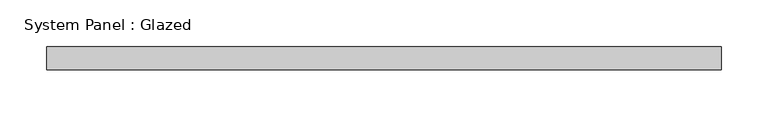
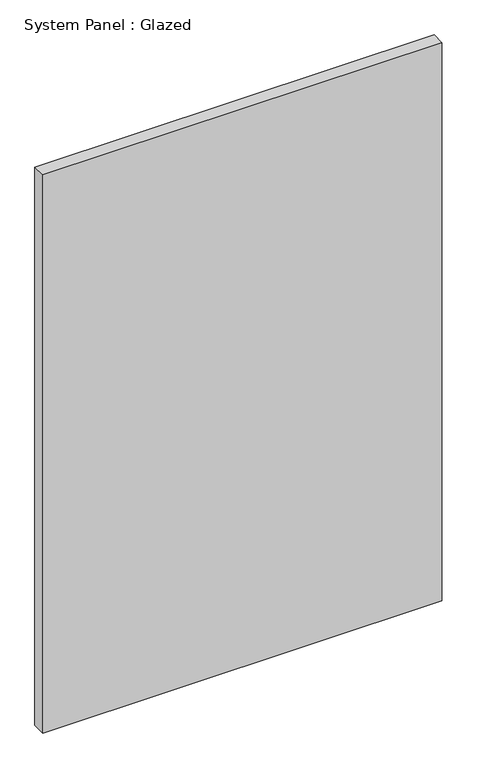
"""IFC4 building model written with IfcOpenShell, lengths in millimetres: plate geometry, System Panel : Glazed."""

import ifcopenshell
import ifcopenshell.guid

model = None  # the IFC model being written
_history = None  # IfcOwnerHistory: only IFC2X3 demands one
_inside = {}  # id of a spatial element -> (the spatial element, [elements in it])
_under = {}  # id of a project, library or spatial element -> (it, [spatial elements below it])
_declared = {}  # id of a project -> (the project, [libraries it declares])
_typed = {}  # id of a type object -> (the type object, [elements of that type])
_made_of = {}  # id of a material, layer set ... -> (it, [elements and type objects made of it])


def new_model(schema):
    """Start an empty IFC model of exactly this schema.

    Asked for "IFC4X3", IfcOpenShell would pick the latest addendum, in which some entities
    have other attributes; the version numbers below select the first issue.
    IFC2X3 requires an IfcOwnerHistory on every rooted entity: one is made here for all.
    """
    global model, _history
    if schema == "IFC4X3":
        model = ifcopenshell.file(schema_version=(4, 3, 0, 0))
    else:
        model = ifcopenshell.file(schema=schema)
    _inside.clear()
    _under.clear()
    _declared.clear()
    _typed.clear()
    _made_of.clear()
    _history = None
    if model.schema == "IFC2X3":
        org = make("IfcOrganization", Name="unknown")
        user = make(
            "IfcPersonAndOrganization",
            ThePerson=make("IfcPerson", FamilyName="unknown"),
            TheOrganization=org,
        )
        app = make(
            "IfcApplication",
            ApplicationDeveloper=org,
            Version="unknown",
            ApplicationFullName="unknown",
            ApplicationIdentifier="unknown",
        )
        _history = make(
            "IfcOwnerHistory",
            OwningUser=user,
            OwningApplication=app,
            ChangeAction="ADDED",
            CreationDate=0,
        )
    return model


def make(cls, **values):
    """One entity of the class cls with the attributes given. An attribute that is None is left unset."""
    return model.create_entity(
        cls, **{name: value for name, value in values.items() if value is not None}
    )


def rooted(cls, **values):
    """An entity with a GlobalId (a new one), such as an element, a storey or a relation."""
    return make(cls, GlobalId=ifcopenshell.guid.new(), OwnerHistory=_history, **values)


def si_unit(unit_type, name, prefix=None):
    """IfcSIUnit, for example si_unit("LENGTHUNIT", "METRE", prefix="MILLI")."""
    return make("IfcSIUnit", UnitType=unit_type, Prefix=prefix, Name=name)


def assignment(units):
    """IfcUnitAssignment: the units of a project."""
    return None if units is None else make("IfcUnitAssignment", Units=units)


def point(xyz):
    """IfcCartesianPoint."""
    return None if xyz is None else make("IfcCartesianPoint", Coordinates=xyz)


def direction(xyz):
    """IfcDirection."""
    return None if xyz is None else make("IfcDirection", DirectionRatios=xyz)


def frame(location, z_axis=None, x_axis=None):
    """IfcAxis2Placement3D, a coordinate frame: its origin and axes. An axis left out is left unset."""
    return make(
        "IfcAxis2Placement3D",
        Location=point(location),
        Axis=direction(z_axis),
        RefDirection=direction(x_axis),
    )


def origin():
    """The frame at (0, 0, 0) with its axes left unset."""
    return frame((0.0, 0.0, 0.0))


def origin_with_axes():
    """The frame at (0, 0, 0) with the z axis (0, 0, 1) and the x axis (1, 0, 0) written out."""
    return frame((0.0, 0.0, 0.0), z_axis=(0.0, 0.0, 1.0), x_axis=(1.0, 0.0, 0.0))


def place(relative_to, where):
    """IfcLocalPlacement: puts the frame where relative to a parent placement (None: the world)."""
    return make(
        "IfcLocalPlacement", PlacementRelTo=relative_to, RelativePlacement=where
    )


def context(
    kind, dimensions, precision=None, world=None, true_north=None, identifier=None
):
    """IfcGeometricRepresentationContext, for example the 3D "Model" context."""
    return make(
        "IfcGeometricRepresentationContext",
        ContextIdentifier=identifier,
        ContextType=kind,
        CoordinateSpaceDimension=dimensions,
        Precision=precision,
        WorldCoordinateSystem=world,
        TrueNorth=true_north,
    )


def project(units=None, contexts=None):
    """IfcProject with its units and contexts."""
    return rooted(
        "IfcProject",
        Name="project",
        RepresentationContexts=contexts,
        UnitsInContext=assignment(units),
    )


def spatial(cls, under=None, at=None, **own):
    """A site, building, storey or space (cls), placed at a placement, below another one or the project."""
    s = rooted(cls, ObjectPlacement=at, **own)
    if under is not None:
        _under.setdefault(under.id(), (under, []))[1].append(s)
    return s


def polyline(points):
    """IfcPolyline through the points."""
    return make("IfcPolyline", Points=[point(p) for p in points])


def outline(outer, holes=None, kind="AREA"):
    """IfcArbitraryClosedProfileDef: a profile drawn as a closed curve; with holes, ...WithVoids."""
    if holes is None:
        return make("IfcArbitraryClosedProfileDef", ProfileType=kind, OuterCurve=outer)
    return make(
        "IfcArbitraryProfileDefWithVoids",
        ProfileType=kind,
        OuterCurve=outer,
        InnerCurves=holes,
    )


def extrude(swept, where, along, depth):
    """IfcExtrudedAreaSolid: the profile swept, set in the frame where, extruded along a direction by depth."""
    return make(
        "IfcExtrudedAreaSolid",
        SweptArea=swept,
        Position=where,
        ExtrudedDirection=direction(along),
        Depth=depth,
    )


def shape(context_of_items, identifier, shape_type, items):
    """IfcShapeRepresentation: the items that make up one representation, for example the "Body"."""
    return make(
        "IfcShapeRepresentation",
        ContextOfItems=context_of_items,
        RepresentationIdentifier=identifier,
        RepresentationType=shape_type,
        Items=items,
    )


def source(mapping_origin, context_of_items, identifier, shape_type, items):
    """IfcRepresentationMap: a shape defined once, which mapped items show again and again."""
    return make(
        "IfcRepresentationMap",
        MappingOrigin=mapping_origin,
        MappedRepresentation=shape(context_of_items, identifier, shape_type, items),
    )


def transform(
    local_origin,
    x_axis=None,
    y_axis=None,
    z_axis=None,
    scale=None,
    scale2=None,
    scale3=None,
    uniform=True,
):
    """IfcCartesianTransformationOperator3D, or its non-uniform kind. x_axis, y_axis, z_axis: its Axis1, 2, 3."""
    if uniform:
        return make(
            "IfcCartesianTransformationOperator3D",
            Axis1=direction(x_axis),
            Axis2=direction(y_axis),
            LocalOrigin=point(local_origin),
            Scale=scale,
            Axis3=direction(z_axis),
        )
    return make(
        "IfcCartesianTransformationOperator3DnonUniform",
        Axis1=direction(x_axis),
        Axis2=direction(y_axis),
        LocalOrigin=point(local_origin),
        Scale=scale,
        Axis3=direction(z_axis),
        Scale2=scale2,
        Scale3=scale3,
    )


def mapped(mapping_source, mapping_target):
    """IfcMappedItem: shows the shape of a source again, moved by a transform."""
    return make(
        "IfcMappedItem", MappingSource=mapping_source, MappingTarget=mapping_target
    )


def made_of(thing, what):
    """Note that an element or type object is made of a material, layer set ...; save() writes the relation."""
    if what is not None:
        _made_of.setdefault(what.id(), (what, []))[1].append(thing)
    return thing


def element(
    cls,
    number,
    at=None,
    inside=None,
    cuts=None,
    type_object=None,
    material=None,
    context=None,
    identifier="Body",
    shape_type=None,
    held_by="IfcProductDefinitionShape",
    body=None,
    shapes=None,
    **own,
):
    """One element of the class cls, such as IfcWall. Its Tag is "e" and its number.

    at: its placement. inside: the storey or other place that contains it. cuts: it is an
    opening in that element (IfcRelVoidsElement). A single representation is given by context,
    identifier, shape_type and body (its items); several are given by shapes. held_by: the class
    of the entity that holds the representations. save() writes the other relations.
    """
    e = rooted(cls, Tag="e%d" % number, ObjectPlacement=at, **own)
    if body is not None:
        shapes = [shape(context, identifier, shape_type, body)]
    if shapes is not None:
        e.Representation = make(held_by, Representations=shapes)
    if inside is not None:
        _inside.setdefault(inside.id(), (inside, []))[1].append(e)
    if cuts is not None:
        rooted(
            "IfcRelVoidsElement", RelatingBuildingElement=cuts, RelatedOpeningElement=e
        )
    if type_object is not None:
        _typed.setdefault(type_object.id(), (type_object, []))[1].append(e)
    return made_of(e, material)


def aggregate(whole, parts):
    """IfcRelAggregates: a whole, such as a stair, and the parts it consists of."""
    return rooted("IfcRelAggregates", RelatingObject=whole, RelatedObjects=parts)


def save(model, path):
    """Write the relations noted so far, then the file.

    IfcRelAggregates (storeys below a building ...), IfcRelContainedInSpatialStructure (elements
    in a storey), IfcRelDefinesByType, IfcRelAssociatesMaterial and IfcRelDeclares: one each for
    every whole, place, type object, material and project.
    """
    for whole, parts in _under.values():
        aggregate(whole, parts)
    for where, things in _inside.values():
        rooted(
            "IfcRelContainedInSpatialStructure",
            RelatedElements=things,
            RelatingStructure=where,
        )
    for kind, things in _typed.values():
        rooted("IfcRelDefinesByType", RelatedObjects=things, RelatingType=kind)
    for what, things in _made_of.values():
        rooted("IfcRelAssociatesMaterial", RelatedObjects=things, RelatingMaterial=what)
    for by, libraries in _declared.values():
        rooted("IfcRelDeclares", RelatingContext=by, RelatedDefinitions=libraries)
    model.write(path)


def system_panel_glazed_41b5ac35(model_context):
    return source(origin(), model_context, "Body", "SweptSolid", [
        extrude(outline(polyline([(361.875, -12.5), (-361.875, -12.5), (-361.875, 12.5), (361.875, 12.5), (361.875, -12.5)])), origin_with_axes(), (0.0, 0.0, 1.0), 1070.0),
    ])


if __name__ == "__main__":
    model = new_model("IFC4")
    model_context = context("Model", 3, world=origin())
    ifc_project = project(units=[si_unit("LENGTHUNIT", "METRE", prefix="MILLI")], contexts=[model_context])
    site = spatial("IfcSite", under=ifc_project)
    building = spatial("IfcBuilding", under=site)
    placement = place(None, origin())
    system_panel_glazed_shape = system_panel_glazed_41b5ac35(model_context)
    element("IfcPlate", 1, ObjectType="System Panel : Glazed", at=placement, inside=building, context=model_context, shape_type="MappedRepresentation", body=[
        mapped(system_panel_glazed_shape, transform((0.0, 0.0, 0.0), x_axis=(1.0, 0.0, 0.0), y_axis=(0.0, 1.0, 0.0), z_axis=(0.0, 0.0, 1.0))),
    ])
    save(model, "model.ifc")
